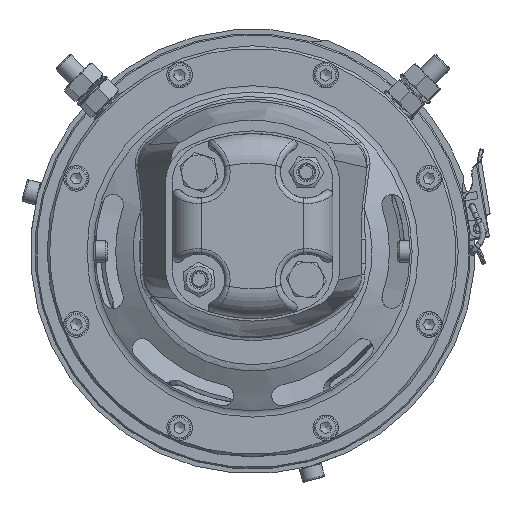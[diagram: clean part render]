
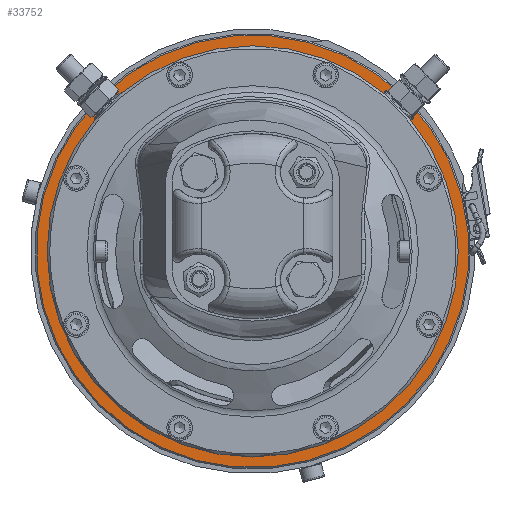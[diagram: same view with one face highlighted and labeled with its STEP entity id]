
A CAD part, front view. The second image highlights one B-rep face of the part: STEP entity #33752.
In plain terms, the highlighted planar face has unit normal (0, -1, 0).
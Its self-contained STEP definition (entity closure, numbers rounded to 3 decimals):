
#1169=FACE_BOUND('',#6063,.T.);
#2051=PLANE('',#36773);
#4043=FACE_OUTER_BOUND('',#6062,.T.);
#6062=EDGE_LOOP('',(#26606));
#6063=EDGE_LOOP('',(#26607));
#12342=CIRCLE('',#36769,76.);
#12345=CIRCLE('',#36774,80.75);
#14849=VERTEX_POINT('',#59788);
#14852=VERTEX_POINT('',#59798);
#18975=EDGE_CURVE('',#14849,#14849,#12342,.T.);
#18980=EDGE_CURVE('',#14852,#14852,#12345,.T.);
#26606=ORIENTED_EDGE('',*,*,#18980,.F.);
#26607=ORIENTED_EDGE('',*,*,#18975,.F.);
#33752=ADVANCED_FACE('',(#4043,#1169),#2051,.T.);
#36769=AXIS2_PLACEMENT_3D('',#59789,#43750,#43751);
#36773=AXIS2_PLACEMENT_3D('',#59797,#43760,#43761);
#36774=AXIS2_PLACEMENT_3D('',#59799,#43762,#43763);
#43750=DIRECTION('center_axis',(0.,-1.,0.));
#43751=DIRECTION('ref_axis',(0.707,0.,0.707));
#43760=DIRECTION('center_axis',(0.,-1.,0.));
#43761=DIRECTION('ref_axis',(0.707,0.,-0.707));
#43762=DIRECTION('center_axis',(0.,1.,0.));
#43763=DIRECTION('ref_axis',(-0.707,0.,-0.707));
#59788=CARTESIAN_POINT('',(-53.74,182.,-53.74));
#59789=CARTESIAN_POINT('Origin',(0.,182.,0.));
#59797=CARTESIAN_POINT('Origin',(55.419,182.,55.419));
#59798=CARTESIAN_POINT('',(57.099,182.,57.099));
#59799=CARTESIAN_POINT('Origin',(0.,182.,0.));
